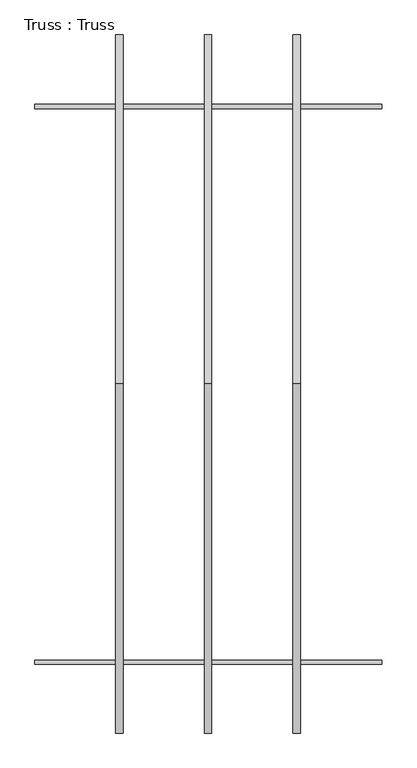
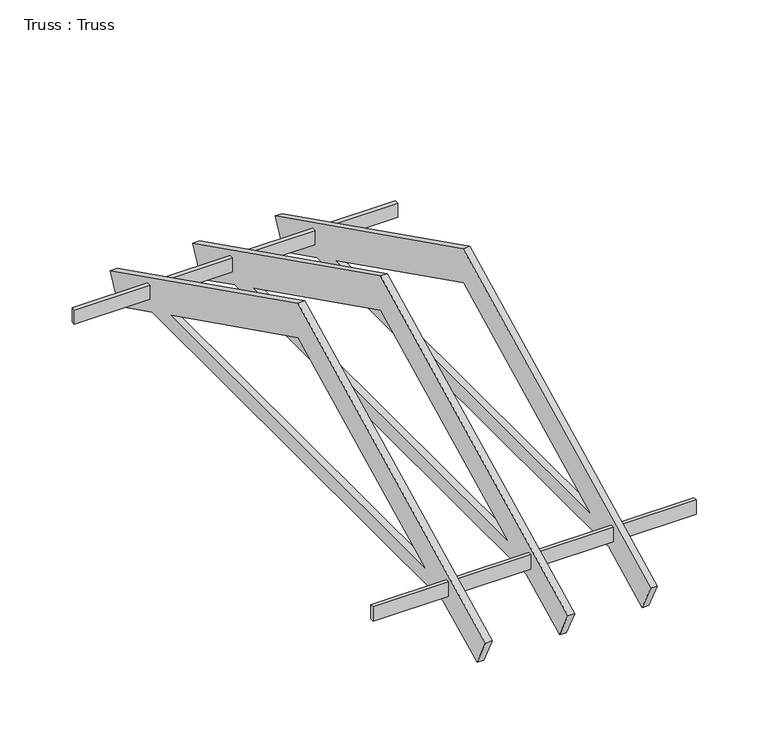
"""IFC4 building model written with IfcOpenShell, lengths in millimetres: beam geometry, Truss : Truss."""

from ifc_helpers import new_model, si_unit, frame, origin, place, context, project, spatial, polyline, outline, extrude, source, transform, mapped, element, save


def truss_truss_4d268ba2(model_context):
    return source(origin(), model_context, "Body", "SweptSolid", [
        extrude(outline(polyline([(26.8220255, 4598.9676883), (26.8220255, 4560.8676883), (-3005.2917921, 4560.8676883), (-3005.2917921, 4598.9676883), (26.8220255, 4598.9676883)])), frame((0.0, 0.0, 105.7580714), z_axis=(0.0, 0.0, 1.0), x_axis=(1.0, 0.0, 0.0)), (0.0, 0.0, 1.0), 139.7),
        extrude(outline(polyline([(26.8220255, -254.5516166), (26.8220255, -292.6516166), (-3005.2917921, -292.6516166), (-3005.2917921, -254.5516166), (26.8220255, -254.5516166)])), frame((0.0, 0.0, 103.4400229), z_axis=(0.0, 0.0, 1.0), x_axis=(1.0, 0.0, 0.0)), (0.0, 0.0, 1.0), 139.7),
        extrude(outline(polyline([(-892.5239157, 0.0), (2155.4760843, 1524.0), (5203.4760843, 0.0), (5067.1653804, -272.6214078), (4521.9225648, 0.0), (-210.9703962, 0.0), (-756.2132118, -272.6214078), (-892.5239157, 0.0)]), holes=[polyline([(93.8296038, 152.4), (4217.1225648, 152.4), (2155.4760843, 1183.2232402), (93.8296038, 152.4)])]), frame((-2297.2667921, 0.0, 0.0), z_axis=(1.0, 0.0, 0.0), x_axis=(0.0, 1.0, 0.0)), (0.0, 0.0, 1.0), 63.4888176),
        extrude(outline(polyline([(-892.5239157, 0.0), (2155.4760843, 1524.0), (5203.4760843, 0.0), (5067.1653804, -272.6214078), (4521.9225648, 0.0), (-210.9703962, 0.0), (-756.2132118, -272.6214078), (-892.5239157, 0.0)]), holes=[polyline([(93.8296038, 152.4), (4217.1225648, 152.4), (2155.4760843, 1183.2232402), (93.8296038, 152.4)])]), frame((-1522.5779745, 0.0, 0.0), z_axis=(1.0, 0.0, 0.0), x_axis=(0.0, 1.0, 0.0)), (0.0, 0.0, 1.0), 63.5),
        extrude(outline(polyline([(-892.5239157, 0.0), (2155.4760843, 1524.0), (5203.4760843, 0.0), (5067.1653804, -272.6214078), (4521.9225648, 0.0), (-210.9703962, 0.0), (-756.2132118, -272.6214078), (-892.5239157, 0.0)]), holes=[polyline([(93.8296038, 152.4), (4217.1225648, 152.4), (2155.4760843, 1183.2232402), (93.8296038, 152.4)])]), frame((-747.8779745, 0.0, 0.0), z_axis=(1.0, 0.0, 0.0), x_axis=(0.0, 1.0, 0.0)), (0.0, 0.0, 1.0), 63.5),
    ])


if __name__ == "__main__":
    model = new_model("IFC4")
    model_context = context("Model", 3, world=origin())
    ifc_project = project(units=[si_unit("LENGTHUNIT", "METRE", prefix="MILLI")], contexts=[model_context])
    site = spatial("IfcSite", under=ifc_project)
    building = spatial("IfcBuilding", under=site)
    placement = place(None, origin())
    truss_truss_shape = truss_truss_4d268ba2(model_context)
    element("IfcBeam", 1, ObjectType="Truss : Truss", at=placement, inside=building, context=model_context, shape_type="MappedRepresentation", body=[
        mapped(truss_truss_shape, transform((0.0, 0.0, 0.0), x_axis=(1.0, 0.0, 0.0), y_axis=(0.0, 1.0, 0.0), z_axis=(0.0, 0.0, 1.0))),
    ])
    save(model, "model.ifc")
